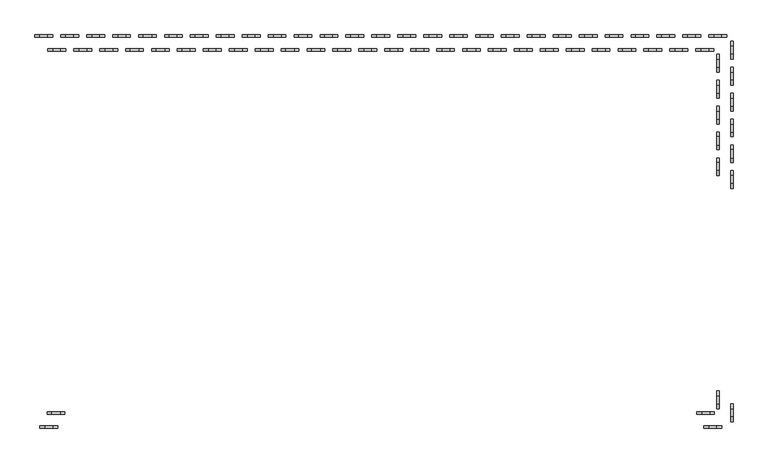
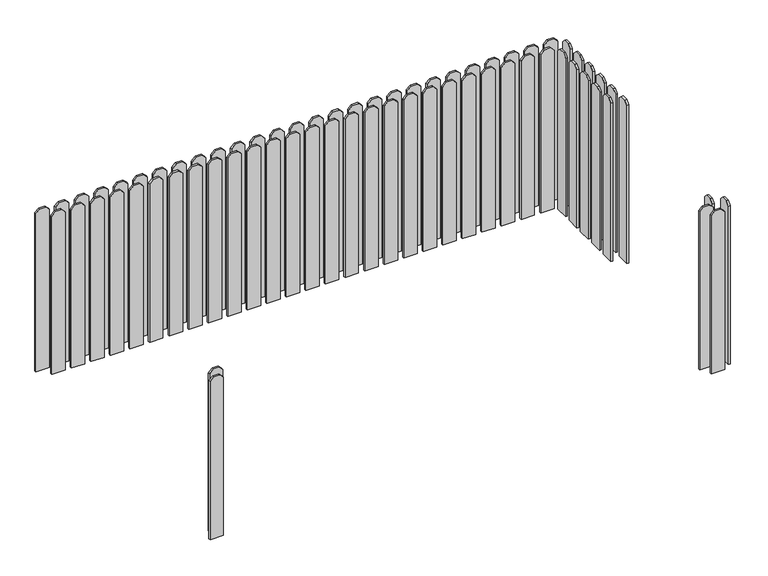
"""IFC4 building model written with IfcOpenShell, lengths in millimetres: geographic element geometry, Wood_Dumpster_Enclosure_3849 : 2 Yard Dumpsters."""

from ifc_helpers import new_model, si_unit, frame, origin, place, context, project, spatial, polyline, outline, extrude, source, transform, mapped, element, save


def geographic_element_b80453f7(model_context):
    return source(origin(), model_context, "Body", "SweptSolid", [
        extrude(outline(polyline([(-1492.25, 76.2), (-1492.25, 1816.1), (-1454.15, 1854.2), (-1390.65, 1854.2), (-1352.55, 1816.1), (-1352.55, 76.2), (-1492.25, 76.2)])), frame((2743.2, 0.0, 0.0), z_axis=(1.0, 0.0, 0.0), x_axis=(0.0, 1.0, 0.0)), (0.0, 0.0, 1.0), 19.05),
        extrude(outline(polyline([(-1390.65, 76.2), (-1390.65, 1816.1), (-1352.55, 1854.2), (-1289.05, 1854.2), (-1250.95, 1816.1), (-1250.95, 76.2), (-1390.65, 76.2)])), frame((2635.25, 0.0, 0.0), z_axis=(1.0, 0.0, 0.0), x_axis=(0.0, 1.0, 0.0)), (0.0, 0.0, 1.0), 19.05),
        extrude(outline(polyline([(336.55, 76.2), (336.55, 1816.1), (374.65, 1854.2), (438.15, 1854.2), (476.25, 1816.1), (476.25, 76.2), (336.55, 76.2)])), frame((2743.2, 0.0, 0.0), z_axis=(1.0, 0.0, 0.0), x_axis=(0.0, 1.0, 0.0)), (0.0, 0.0, 1.0), 19.05),
        extrude(outline(polyline([(946.15, 76.2), (946.15, 1816.1), (984.25, 1854.2), (1047.75, 1854.2), (1085.85, 1816.1), (1085.85, 76.2), (946.15, 76.2)])), frame((2743.2, 0.0, 0.0), z_axis=(1.0, 0.0, 0.0), x_axis=(0.0, 1.0, 0.0)), (0.0, 0.0, 1.0), 19.05),
        extrude(outline(polyline([(742.95, 76.2), (742.95, 1816.1), (781.05, 1854.2), (844.55, 1854.2), (882.65, 1816.1), (882.65, 76.2), (742.95, 76.2)])), frame((2743.2, 0.0, 0.0), z_axis=(1.0, 0.0, 0.0), x_axis=(0.0, 1.0, 0.0)), (0.0, 0.0, 1.0), 19.05),
        extrude(outline(polyline([(844.55, 76.2), (844.55, 1816.1), (882.65, 1854.2), (946.15, 1854.2), (984.25, 1816.1), (984.25, 76.2), (844.55, 76.2)])), frame((2635.25, 0.0, 0.0), z_axis=(1.0, 0.0, 0.0), x_axis=(0.0, 1.0, 0.0)), (0.0, 0.0, 1.0), 19.05),
        extrude(outline(polyline([(1047.75, 76.2), (1047.75, 1816.1), (1085.85, 1854.2), (1149.35, 1854.2), (1187.45, 1816.1), (1187.45, 76.2), (1047.75, 76.2)])), frame((2635.25, 0.0, 0.0), z_axis=(1.0, 0.0, 0.0), x_axis=(0.0, 1.0, 0.0)), (0.0, 0.0, 1.0), 19.05),
        extrude(outline(polyline([(539.75, 76.2), (539.75, 1816.1), (577.85, 1854.2), (641.35, 1854.2), (679.45, 1816.1), (679.45, 76.2), (539.75, 76.2)])), frame((2743.2, 0.0, 0.0), z_axis=(1.0, 0.0, 0.0), x_axis=(0.0, 1.0, 0.0)), (0.0, 0.0, 1.0), 19.05),
        extrude(outline(polyline([(641.35, 76.2), (641.35, 1816.1), (679.45, 1854.2), (742.95, 1854.2), (781.05, 1816.1), (781.05, 76.2), (641.35, 76.2)])), frame((2635.25, 0.0, 0.0), z_axis=(1.0, 0.0, 0.0), x_axis=(0.0, 1.0, 0.0)), (0.0, 0.0, 1.0), 19.05),
        extrude(outline(polyline([(438.15, 76.2), (438.15, 1816.1), (476.25, 1854.2), (539.75, 1854.2), (577.85, 1816.1), (577.85, 76.2), (438.15, 76.2)])), frame((2635.25, 0.0, 0.0), z_axis=(1.0, 0.0, 0.0), x_axis=(0.0, 1.0, 0.0)), (0.0, 0.0, 1.0), 19.05),
        extrude(outline(polyline([(1149.35, 76.2), (1149.35, 1816.1), (1187.45, 1854.2), (1250.95, 1854.2), (1289.05, 1816.1), (1289.05, 76.2), (1149.35, 76.2)])), frame((2743.2, 0.0, 0.0), z_axis=(1.0, 0.0, 0.0), x_axis=(0.0, 1.0, 0.0)), (0.0, 0.0, 1.0), 19.05),
        extrude(outline(polyline([(1250.95, 76.2), (1250.95, 1816.1), (1289.05, 1854.2), (1352.55, 1854.2), (1390.65, 1816.1), (1390.65, 76.2), (1250.95, 76.2)])), frame((2635.25, 0.0, 0.0), z_axis=(1.0, 0.0, 0.0), x_axis=(0.0, 1.0, 0.0)), (0.0, 0.0, 1.0), 19.05),
        extrude(outline(polyline([(1352.55, 76.2), (1352.55, 1816.1), (1390.65, 1854.2), (1454.15, 1854.2), (1492.25, 1816.1), (1492.25, 76.2), (1352.55, 76.2)])), frame((2743.2, 0.0, 0.0), z_axis=(1.0, 0.0, 0.0), x_axis=(0.0, 1.0, 0.0)), (0.0, 0.0, 1.0), 19.05),
        extrude(outline(polyline([(76.2, -2673.35), (76.2, -2533.65), (1816.1, -2533.65), (1854.2, -2571.75), (1854.2, -2635.25), (1816.1, -2673.35), (76.2, -2673.35)])), frame((0.0, -1543.05, 0.0), z_axis=(0.0, 1.0, 0.0), x_axis=(0.0, 0.0, 1.0)), (0.0, 0.0, 1.0), 19.05),
        extrude(outline(polyline([(76.2, -2616.2), (76.2, -2476.5), (1816.1, -2476.5), (1854.2, -2514.6), (1854.2, -2578.1), (1816.1, -2616.2), (76.2, -2616.2)])), frame((0.0, -1435.1, 0.0), z_axis=(0.0, 1.0, 0.0), x_axis=(0.0, 0.0, 1.0)), (0.0, 0.0, 1.0), 19.05),
        extrude(outline(polyline([(76.2, 2673.35), (1816.1, 2673.35), (1854.2, 2635.25), (1854.2, 2571.75), (1816.1, 2533.65), (76.2, 2533.65), (76.2, 2673.35)])), frame((0.0, -1543.05, 0.0), z_axis=(0.0, 1.0, 0.0), x_axis=(0.0, 0.0, 1.0)), (0.0, 0.0, 1.0), 19.05),
        extrude(outline(polyline([(76.2, 2616.2), (1816.1, 2616.2), (1854.2, 2578.1), (1854.2, 2514.6), (1816.1, 2476.5), (76.2, 2476.5), (76.2, 2616.2)])), frame((0.0, -1435.1, 0.0), z_axis=(0.0, 1.0, 0.0), x_axis=(0.0, 0.0, 1.0)), (0.0, 0.0, 1.0), 19.05),
        extrude(outline(polyline([(76.2, 69.85), (1816.1, 69.85), (1854.2, 31.75), (1854.2, -31.75), (1816.1, -69.85), (76.2, -69.85), (76.2, 69.85)])), frame((0.0, 1524.0, 0.0), z_axis=(0.0, 1.0, 0.0), x_axis=(0.0, 0.0, 1.0)), (0.0, 0.0, 1.0), 19.05),
        extrude(outline(polyline([(76.2, -31.75), (1816.1, -31.75), (1854.2, -69.85), (1854.2, -133.35), (1816.1, -171.45), (76.2, -171.45), (76.2, -31.75)])), frame((0.0, 1416.05, 0.0), z_axis=(0.0, 1.0, 0.0), x_axis=(0.0, 0.0, 1.0)), (0.0, 0.0, 1.0), 19.05),
        extrude(outline(polyline([(76.2, -133.35), (1816.1, -133.35), (1854.2, -171.45), (1854.2, -234.95), (1816.1, -273.05), (76.2, -273.05), (76.2, -133.35)])), frame((0.0, 1524.0, 0.0), z_axis=(0.0, 1.0, 0.0), x_axis=(0.0, 0.0, 1.0)), (0.0, 0.0, 1.0), 19.05),
        extrude(outline(polyline([(76.2, -234.95), (1816.1, -234.95), (1854.2, -273.05), (1854.2, -336.55), (1816.1, -374.65), (76.2, -374.65), (76.2, -234.95)])), frame((0.0, 1416.05, 0.0), z_axis=(0.0, 1.0, 0.0), x_axis=(0.0, 0.0, 1.0)), (0.0, 0.0, 1.0), 19.05),
        extrude(outline(polyline([(76.2, -336.55), (1816.1, -336.55), (1854.2, -374.65), (1854.2, -438.15), (1816.1, -476.25), (76.2, -476.25), (76.2, -336.55)])), frame((0.0, 1524.0, 0.0), z_axis=(0.0, 1.0, 0.0), x_axis=(0.0, 0.0, 1.0)), (0.0, 0.0, 1.0), 19.05),
        extrude(outline(polyline([(76.2, -438.15), (1816.1, -438.15), (1854.2, -476.25), (1854.2, -539.75), (1816.1, -577.85), (76.2, -577.85), (76.2, -438.15)])), frame((0.0, 1416.05, 0.0), z_axis=(0.0, 1.0, 0.0), x_axis=(0.0, 0.0, 1.0)), (0.0, 0.0, 1.0), 19.05),
        extrude(outline(polyline([(76.2, -539.75), (1816.1, -539.75), (1854.2, -577.85), (1854.2, -641.35), (1816.1, -679.45), (76.2, -679.45), (76.2, -539.75)])), frame((0.0, 1524.0, 0.0), z_axis=(0.0, 1.0, 0.0), x_axis=(0.0, 0.0, 1.0)), (0.0, 0.0, 1.0), 19.05),
        extrude(outline(polyline([(76.2, -641.35), (1816.1, -641.35), (1854.2, -679.45), (1854.2, -742.95), (1816.1, -781.05), (76.2, -781.05), (76.2, -641.35)])), frame((0.0, 1416.05, 0.0), z_axis=(0.0, 1.0, 0.0), x_axis=(0.0, 0.0, 1.0)), (0.0, 0.0, 1.0), 19.05),
        extrude(outline(polyline([(76.2, -742.95), (1816.1, -742.95), (1854.2, -781.05), (1854.2, -844.55), (1816.1, -882.65), (76.2, -882.65), (76.2, -742.95)])), frame((0.0, 1524.0, 0.0), z_axis=(0.0, 1.0, 0.0), x_axis=(0.0, 0.0, 1.0)), (0.0, 0.0, 1.0), 19.05),
        extrude(outline(polyline([(76.2, -844.55), (1816.1, -844.55), (1854.2, -882.65), (1854.2, -946.15), (1816.1, -984.25), (76.2, -984.25), (76.2, -844.55)])), frame((0.0, 1416.05, 0.0), z_axis=(0.0, 1.0, 0.0), x_axis=(0.0, 0.0, 1.0)), (0.0, 0.0, 1.0), 19.05),
        extrude(outline(polyline([(76.2, -946.15), (1816.1, -946.15), (1854.2, -984.25), (1854.2, -1047.75), (1816.1, -1085.85), (76.2, -1085.85), (76.2, -946.15)])), frame((0.0, 1524.0, 0.0), z_axis=(0.0, 1.0, 0.0), x_axis=(0.0, 0.0, 1.0)), (0.0, 0.0, 1.0), 19.05),
        extrude(outline(polyline([(76.2, -1047.75), (1816.1, -1047.75), (1854.2, -1085.85), (1854.2, -1149.35), (1816.1, -1187.45), (76.2, -1187.45), (76.2, -1047.75)])), frame((0.0, 1416.05, 0.0), z_axis=(0.0, 1.0, 0.0), x_axis=(0.0, 0.0, 1.0)), (0.0, 0.0, 1.0), 19.05),
        extrude(outline(polyline([(76.2, -1149.35), (1816.1, -1149.35), (1854.2, -1187.45), (1854.2, -1250.95), (1816.1, -1289.05), (76.2, -1289.05), (76.2, -1149.35)])), frame((0.0, 1524.0, 0.0), z_axis=(0.0, 1.0, 0.0), x_axis=(0.0, 0.0, 1.0)), (0.0, 0.0, 1.0), 19.05),
        extrude(outline(polyline([(76.2, -1250.95), (1816.1, -1250.95), (1854.2, -1289.05), (1854.2, -1352.55), (1816.1, -1390.65), (76.2, -1390.65), (76.2, -1250.95)])), frame((0.0, 1416.05, 0.0), z_axis=(0.0, 1.0, 0.0), x_axis=(0.0, 0.0, 1.0)), (0.0, 0.0, 1.0), 19.05),
        extrude(outline(polyline([(76.2, -1352.55), (1816.1, -1352.55), (1854.2, -1390.65), (1854.2, -1454.15), (1816.1, -1492.25), (76.2, -1492.25), (76.2, -1352.55)])), frame((0.0, 1524.0, 0.0), z_axis=(0.0, 1.0, 0.0), x_axis=(0.0, 0.0, 1.0)), (0.0, 0.0, 1.0), 19.05),
        extrude(outline(polyline([(76.2, -1454.15), (1816.1, -1454.15), (1854.2, -1492.25), (1854.2, -1555.75), (1816.1, -1593.85), (76.2, -1593.85), (76.2, -1454.15)])), frame((0.0, 1416.05, 0.0), z_axis=(0.0, 1.0, 0.0), x_axis=(0.0, 0.0, 1.0)), (0.0, 0.0, 1.0), 19.05),
        extrude(outline(polyline([(76.2, -1555.75), (1816.1, -1555.75), (1854.2, -1593.85), (1854.2, -1657.35), (1816.1, -1695.45), (76.2, -1695.45), (76.2, -1555.75)])), frame((0.0, 1524.0, 0.0), z_axis=(0.0, 1.0, 0.0), x_axis=(0.0, 0.0, 1.0)), (0.0, 0.0, 1.0), 19.05),
        extrude(outline(polyline([(76.2, -1657.35), (1816.1, -1657.35), (1854.2, -1695.45), (1854.2, -1758.95), (1816.1, -1797.05), (76.2, -1797.05), (76.2, -1657.35)])), frame((0.0, 1416.05, 0.0), z_axis=(0.0, 1.0, 0.0), x_axis=(0.0, 0.0, 1.0)), (0.0, 0.0, 1.0), 19.05),
        extrude(outline(polyline([(76.2, -1758.95), (1816.1, -1758.95), (1854.2, -1797.05), (1854.2, -1860.55), (1816.1, -1898.65), (76.2, -1898.65), (76.2, -1758.95)])), frame((0.0, 1524.0, 0.0), z_axis=(0.0, 1.0, 0.0), x_axis=(0.0, 0.0, 1.0)), (0.0, 0.0, 1.0), 19.05),
        extrude(outline(polyline([(76.2, -1860.55), (1816.1, -1860.55), (1854.2, -1898.65), (1854.2, -1962.15), (1816.1, -2000.25), (76.2, -2000.25), (76.2, -1860.55)])), frame((0.0, 1416.05, 0.0), z_axis=(0.0, 1.0, 0.0), x_axis=(0.0, 0.0, 1.0)), (0.0, 0.0, 1.0), 19.05),
        extrude(outline(polyline([(76.2, -1962.15), (1816.1, -1962.15), (1854.2, -2000.25), (1854.2, -2063.75), (1816.1, -2101.85), (76.2, -2101.85), (76.2, -1962.15)])), frame((0.0, 1524.0, 0.0), z_axis=(0.0, 1.0, 0.0), x_axis=(0.0, 0.0, 1.0)), (0.0, 0.0, 1.0), 19.05),
        extrude(outline(polyline([(76.2, -2063.75), (1816.1, -2063.75), (1854.2, -2101.85), (1854.2, -2165.35), (1816.1, -2203.45), (76.2, -2203.45), (76.2, -2063.75)])), frame((0.0, 1416.05, 0.0), z_axis=(0.0, 1.0, 0.0), x_axis=(0.0, 0.0, 1.0)), (0.0, 0.0, 1.0), 19.05),
        extrude(outline(polyline([(76.2, -2165.35), (1816.1, -2165.35), (1854.2, -2203.45), (1854.2, -2266.95), (1816.1, -2305.05), (76.2, -2305.05), (76.2, -2165.35)])), frame((0.0, 1524.0, 0.0), z_axis=(0.0, 1.0, 0.0), x_axis=(0.0, 0.0, 1.0)), (0.0, 0.0, 1.0), 19.05),
        extrude(outline(polyline([(76.2, -2266.95), (1816.1, -2266.95), (1854.2, -2305.05), (1854.2, -2368.55), (1816.1, -2406.65), (76.2, -2406.65), (76.2, -2266.95)])), frame((0.0, 1416.05, 0.0), z_axis=(0.0, 1.0, 0.0), x_axis=(0.0, 0.0, 1.0)), (0.0, 0.0, 1.0), 19.05),
        extrude(outline(polyline([(76.2, -2368.55), (1816.1, -2368.55), (1854.2, -2406.65), (1854.2, -2470.15), (1816.1, -2508.25), (76.2, -2508.25), (76.2, -2368.55)])), frame((0.0, 1524.0, 0.0), z_axis=(0.0, 1.0, 0.0), x_axis=(0.0, 0.0, 1.0)), (0.0, 0.0, 1.0), 19.05),
        extrude(outline(polyline([(76.2, -2470.15), (1816.1, -2470.15), (1854.2, -2508.25), (1854.2, -2571.75), (1816.1, -2609.85), (76.2, -2609.85), (76.2, -2470.15)])), frame((0.0, 1416.05, 0.0), z_axis=(0.0, 1.0, 0.0), x_axis=(0.0, 0.0, 1.0)), (0.0, 0.0, 1.0), 19.05),
        extrude(outline(polyline([(76.2, -2571.75), (1816.1, -2571.75), (1854.2, -2609.85), (1854.2, -2673.35), (1816.1, -2711.45), (76.2, -2711.45), (76.2, -2571.75)])), frame((0.0, 1524.0, 0.0), z_axis=(0.0, 1.0, 0.0), x_axis=(0.0, 0.0, 1.0)), (0.0, 0.0, 1.0), 19.05),
        extrude(outline(polyline([(76.2, 2305.05), (1816.1, 2305.05), (1854.2, 2266.95), (1854.2, 2203.45), (1816.1, 2165.35), (76.2, 2165.35), (76.2, 2305.05)])), frame((0.0, 1524.0, 0.0), z_axis=(0.0, 1.0, 0.0), x_axis=(0.0, 0.0, 1.0)), (0.0, 0.0, 1.0), 19.05),
        extrude(outline(polyline([(76.2, 2203.45), (1816.1, 2203.45), (1854.2, 2165.35), (1854.2, 2101.85), (1816.1, 2063.75), (76.2, 2063.75), (76.2, 2203.45)])), frame((0.0, 1416.05, 0.0), z_axis=(0.0, 1.0, 0.0), x_axis=(0.0, 0.0, 1.0)), (0.0, 0.0, 1.0), 19.05),
        extrude(outline(polyline([(76.2, 2101.85), (1816.1, 2101.85), (1854.2, 2063.75), (1854.2, 2000.25), (1816.1, 1962.15), (76.2, 1962.15), (76.2, 2101.85)])), frame((0.0, 1524.0, 0.0), z_axis=(0.0, 1.0, 0.0), x_axis=(0.0, 0.0, 1.0)), (0.0, 0.0, 1.0), 19.05),
        extrude(outline(polyline([(76.2, 2000.25), (1816.1, 2000.25), (1854.2, 1962.15), (1854.2, 1898.65), (1816.1, 1860.55), (76.2, 1860.55), (76.2, 2000.25)])), frame((0.0, 1416.05, 0.0), z_axis=(0.0, 1.0, 0.0), x_axis=(0.0, 0.0, 1.0)), (0.0, 0.0, 1.0), 19.05),
        extrude(outline(polyline([(76.2, 1898.65), (1816.1, 1898.65), (1854.2, 1860.55), (1854.2, 1797.05), (1816.1, 1758.95), (76.2, 1758.95), (76.2, 1898.65)])), frame((0.0, 1524.0, 0.0), z_axis=(0.0, 1.0, 0.0), x_axis=(0.0, 0.0, 1.0)), (0.0, 0.0, 1.0), 19.05),
        extrude(outline(polyline([(76.2, 1797.05), (1816.1, 1797.05), (1854.2, 1758.95), (1854.2, 1695.45), (1816.1, 1657.35), (76.2, 1657.35), (76.2, 1797.05)])), frame((0.0, 1416.05, 0.0), z_axis=(0.0, 1.0, 0.0), x_axis=(0.0, 0.0, 1.0)), (0.0, 0.0, 1.0), 19.05),
        extrude(outline(polyline([(76.2, 1695.45), (1816.1, 1695.45), (1854.2, 1657.35), (1854.2, 1593.85), (1816.1, 1555.75), (76.2, 1555.75), (76.2, 1695.45)])), frame((0.0, 1524.0, 0.0), z_axis=(0.0, 1.0, 0.0), x_axis=(0.0, 0.0, 1.0)), (0.0, 0.0, 1.0), 19.05),
        extrude(outline(polyline([(76.2, 1593.85), (1816.1, 1593.85), (1854.2, 1555.75), (1854.2, 1492.25), (1816.1, 1454.15), (76.2, 1454.15), (76.2, 1593.85)])), frame((0.0, 1416.05, 0.0), z_axis=(0.0, 1.0, 0.0), x_axis=(0.0, 0.0, 1.0)), (0.0, 0.0, 1.0), 19.05),
        extrude(outline(polyline([(76.2, 1492.25), (1816.1, 1492.25), (1854.2, 1454.15), (1854.2, 1390.65), (1816.1, 1352.55), (76.2, 1352.55), (76.2, 1492.25)])), frame((0.0, 1524.0, 0.0), z_axis=(0.0, 1.0, 0.0), x_axis=(0.0, 0.0, 1.0)), (0.0, 0.0, 1.0), 19.05),
        extrude(outline(polyline([(76.2, 1390.65), (1816.1, 1390.65), (1854.2, 1352.55), (1854.2, 1289.05), (1816.1, 1250.95), (76.2, 1250.95), (76.2, 1390.65)])), frame((0.0, 1416.05, 0.0), z_axis=(0.0, 1.0, 0.0), x_axis=(0.0, 0.0, 1.0)), (0.0, 0.0, 1.0), 19.05),
        extrude(outline(polyline([(76.2, 1289.05), (1816.1, 1289.05), (1854.2, 1250.95), (1854.2, 1187.45), (1816.1, 1149.35), (76.2, 1149.35), (76.2, 1289.05)])), frame((0.0, 1524.0, 0.0), z_axis=(0.0, 1.0, 0.0), x_axis=(0.0, 0.0, 1.0)), (0.0, 0.0, 1.0), 19.05),
        extrude(outline(polyline([(76.2, 1187.45), (1816.1, 1187.45), (1854.2, 1149.35), (1854.2, 1085.85), (1816.1, 1047.75), (76.2, 1047.75), (76.2, 1187.45)])), frame((0.0, 1416.05, 0.0), z_axis=(0.0, 1.0, 0.0), x_axis=(0.0, 0.0, 1.0)), (0.0, 0.0, 1.0), 19.05),
        extrude(outline(polyline([(76.2, 1085.85), (1816.1, 1085.85), (1854.2, 1047.75), (1854.2, 984.25), (1816.1, 946.15), (76.2, 946.15), (76.2, 1085.85)])), frame((0.0, 1524.0, 0.0), z_axis=(0.0, 1.0, 0.0), x_axis=(0.0, 0.0, 1.0)), (0.0, 0.0, 1.0), 19.05),
        extrude(outline(polyline([(76.2, 984.25), (1816.1, 984.25), (1854.2, 946.15), (1854.2, 882.65), (1816.1, 844.55), (76.2, 844.55), (76.2, 984.25)])), frame((0.0, 1416.05, 0.0), z_axis=(0.0, 1.0, 0.0), x_axis=(0.0, 0.0, 1.0)), (0.0, 0.0, 1.0), 19.05),
        extrude(outline(polyline([(76.2, 882.65), (1816.1, 882.65), (1854.2, 844.55), (1854.2, 781.05), (1816.1, 742.95), (76.2, 742.95), (76.2, 882.65)])), frame((0.0, 1524.0, 0.0), z_axis=(0.0, 1.0, 0.0), x_axis=(0.0, 0.0, 1.0)), (0.0, 0.0, 1.0), 19.05),
        extrude(outline(polyline([(76.2, 781.05), (1816.1, 781.05), (1854.2, 742.95), (1854.2, 679.45), (1816.1, 641.35), (76.2, 641.35), (76.2, 781.05)])), frame((0.0, 1416.05, 0.0), z_axis=(0.0, 1.0, 0.0), x_axis=(0.0, 0.0, 1.0)), (0.0, 0.0, 1.0), 19.05),
        extrude(outline(polyline([(76.2, 679.45), (1816.1, 679.45), (1854.2, 641.35), (1854.2, 577.85), (1816.1, 539.75), (76.2, 539.75), (76.2, 679.45)])), frame((0.0, 1524.0, 0.0), z_axis=(0.0, 1.0, 0.0), x_axis=(0.0, 0.0, 1.0)), (0.0, 0.0, 1.0), 19.05),
        extrude(outline(polyline([(76.2, 577.85), (1816.1, 577.85), (1854.2, 539.75), (1854.2, 476.25), (1816.1, 438.15), (76.2, 438.15), (76.2, 577.85)])), frame((0.0, 1416.05, 0.0), z_axis=(0.0, 1.0, 0.0), x_axis=(0.0, 0.0, 1.0)), (0.0, 0.0, 1.0), 19.05),
        extrude(outline(polyline([(76.2, 476.25), (1816.1, 476.25), (1854.2, 438.15), (1854.2, 374.65), (1816.1, 336.55), (76.2, 336.55), (76.2, 476.25)])), frame((0.0, 1524.0, 0.0), z_axis=(0.0, 1.0, 0.0), x_axis=(0.0, 0.0, 1.0)), (0.0, 0.0, 1.0), 19.05),
        extrude(outline(polyline([(76.2, 374.65), (1816.1, 374.65), (1854.2, 336.55), (1854.2, 273.05), (1816.1, 234.95), (76.2, 234.95), (76.2, 374.65)])), frame((0.0, 1416.05, 0.0), z_axis=(0.0, 1.0, 0.0), x_axis=(0.0, 0.0, 1.0)), (0.0, 0.0, 1.0), 19.05),
        extrude(outline(polyline([(76.2, 273.05), (1816.1, 273.05), (1854.2, 234.95), (1854.2, 171.45), (1816.1, 133.35), (76.2, 133.35), (76.2, 273.05)])), frame((0.0, 1524.0, 0.0), z_axis=(0.0, 1.0, 0.0), x_axis=(0.0, 0.0, 1.0)), (0.0, 0.0, 1.0), 19.05),
        extrude(outline(polyline([(76.2, 171.45), (1816.1, 171.45), (1854.2, 133.35), (1854.2, 69.85), (1816.1, 31.75), (76.2, 31.75), (76.2, 171.45)])), frame((0.0, 1416.05, 0.0), z_axis=(0.0, 1.0, 0.0), x_axis=(0.0, 0.0, 1.0)), (0.0, 0.0, 1.0), 19.05),
        extrude(outline(polyline([(76.2, 2711.45), (1816.1, 2711.45), (1854.2, 2673.35), (1854.2, 2609.85), (1816.1, 2571.75), (76.2, 2571.75), (76.2, 2711.45)])), frame((0.0, 1524.0, 0.0), z_axis=(0.0, 1.0, 0.0), x_axis=(0.0, 0.0, 1.0)), (0.0, 0.0, 1.0), 19.05),
        extrude(outline(polyline([(76.2, 2609.85), (1816.1, 2609.85), (1854.2, 2571.75), (1854.2, 2508.25), (1816.1, 2470.15), (76.2, 2470.15), (76.2, 2609.85)])), frame((0.0, 1416.05, 0.0), z_axis=(0.0, 1.0, 0.0), x_axis=(0.0, 0.0, 1.0)), (0.0, 0.0, 1.0), 19.05),
        extrude(outline(polyline([(76.2, 2508.25), (1816.1, 2508.25), (1854.2, 2470.15), (1854.2, 2406.65), (1816.1, 2368.55), (76.2, 2368.55), (76.2, 2508.25)])), frame((0.0, 1524.0, 0.0), z_axis=(0.0, 1.0, 0.0), x_axis=(0.0, 0.0, 1.0)), (0.0, 0.0, 1.0), 19.05),
        extrude(outline(polyline([(76.2, 2406.65), (1816.1, 2406.65), (1854.2, 2368.55), (1854.2, 2305.05), (1816.1, 2266.95), (76.2, 2266.95), (76.2, 2406.65)])), frame((0.0, 1416.05, 0.0), z_axis=(0.0, 1.0, 0.0), x_axis=(0.0, 0.0, 1.0)), (0.0, 0.0, 1.0), 19.05),
    ])


if __name__ == "__main__":
    model = new_model("IFC4")
    model_context = context("Model", 3, world=origin())
    ifc_project = project(units=[si_unit("LENGTHUNIT", "METRE", prefix="MILLI")], contexts=[model_context])
    site = spatial("IfcSite", under=ifc_project)
    building = spatial("IfcBuilding", under=site)
    placement = place(None, origin())
    geographic_element_shape = geographic_element_b80453f7(model_context)
    element("IfcGeographicElement", 1, ObjectType="Wood_Dumpster_Enclosure_3849 : 2 Yard Dumpsters", at=placement, inside=building, context=model_context, shape_type="MappedRepresentation", body=[
        mapped(geographic_element_shape, transform((0.0, 0.0, 0.0), x_axis=(1.0, 0.0, 0.0), y_axis=(0.0, 1.0, 0.0), z_axis=(0.0, 0.0, 1.0))),
    ])
    save(model, "model.ifc")
